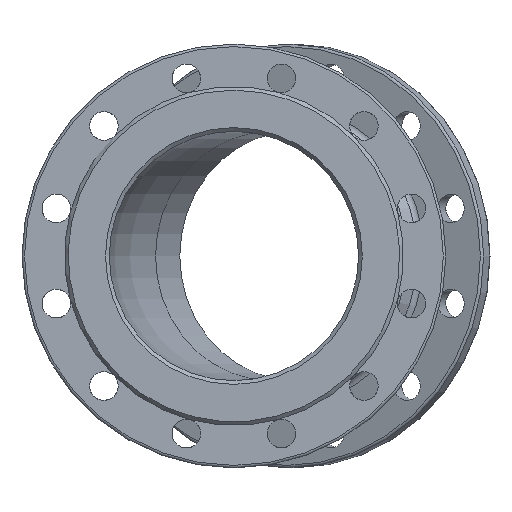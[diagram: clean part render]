
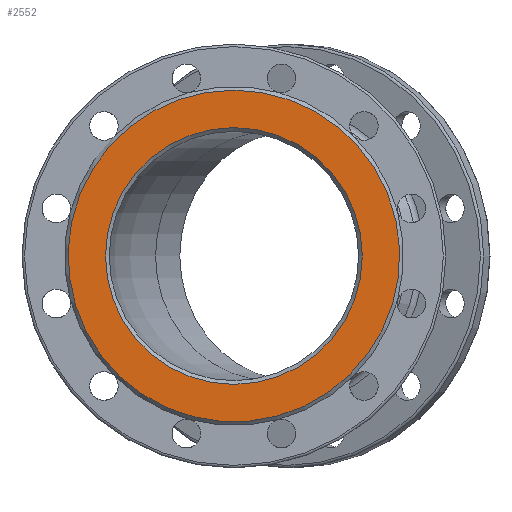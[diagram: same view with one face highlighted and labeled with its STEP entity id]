
A CAD part, left-side view. The second image highlights one B-rep face of the part: STEP entity #2552.
In plain terms, the highlighted planar face has unit normal (-1, 0, 0).
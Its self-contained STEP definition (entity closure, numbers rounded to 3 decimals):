
#187 = CARTESIAN_POINT ( 'NONE',  ( 0., 100., 0. ) ) ;
#199 = DIRECTION ( 'NONE',  ( 0., 0., -1. ) ) ;
#425 = EDGE_LOOP ( 'NONE', ( #2854 ) ) ;
#458 = VERTEX_POINT ( 'NONE', #505 ) ;
#475 = ORIENTED_EDGE ( 'NONE', *, *, #2407, .T. ) ;
#505 = CARTESIAN_POINT ( 'NONE',  ( 0., 0., -103. ) ) ;
#549 = AXIS2_PLACEMENT_3D ( 'NONE', #683, #2954, #1606 ) ;
#683 = CARTESIAN_POINT ( 'NONE',  ( 0., 0., 0. ) ) ;
#808 = DIRECTION ( 'NONE',  ( 0., 0., -1. ) ) ;
#836 = CARTESIAN_POINT ( 'NONE',  ( 0., 0., 0. ) ) ;
#869 = FACE_BOUND ( 'NONE', #2825, .T. ) ;
#956 = CARTESIAN_POINT ( 'NONE',  ( 0., 0., 133. ) ) ;
#1133 = PLANE ( 'NONE',  #2489 ) ;
#1406 = VERTEX_POINT ( 'NONE', #956 ) ;
#1606 = DIRECTION ( 'NONE',  ( 0., 0., 1. ) ) ;
#1762 = CIRCLE ( 'NONE', #549, 133. ) ;
#1792 = DIRECTION ( 'NONE',  ( 1., 0., 0. ) ) ;
#2255 = FACE_OUTER_BOUND ( 'NONE', #425, .T. ) ;
#2294 = AXIS2_PLACEMENT_3D ( 'NONE', #836, #2655, #808 ) ;
#2388 = CIRCLE ( 'NONE', #2294, 103. ) ;
#2407 = EDGE_CURVE ( 'NONE', #458, #458, #2388, .T. ) ;
#2489 = AXIS2_PLACEMENT_3D ( 'NONE', #187, #1792, #199 ) ;
#2546 = EDGE_CURVE ( 'NONE', #1406, #1406, #1762, .T. ) ;
#2552 = ADVANCED_FACE ( 'NONE', ( #869, #2255 ), #1133, .F. ) ;
#2655 = DIRECTION ( 'NONE',  ( 1., 0., 0. ) ) ;
#2825 = EDGE_LOOP ( 'NONE', ( #475 ) ) ;
#2854 = ORIENTED_EDGE ( 'NONE', *, *, #2546, .T. ) ;
#2954 = DIRECTION ( 'NONE',  ( -1., 0., 0. ) ) ;
